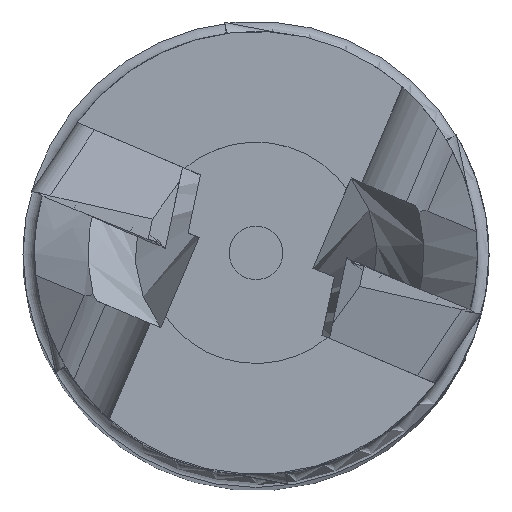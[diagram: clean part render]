
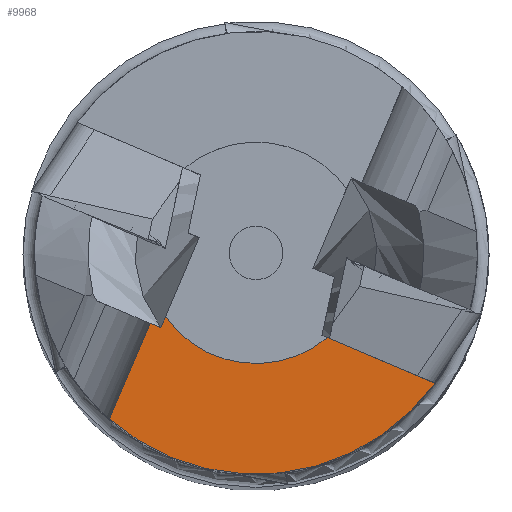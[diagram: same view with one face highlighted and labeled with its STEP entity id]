
A CAD part, top view. The second image highlights one B-rep face of the part: STEP entity #9968.
In plain terms, the highlighted planar face has unit normal (0, 0, 1).
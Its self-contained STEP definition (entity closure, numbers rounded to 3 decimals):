
#121=PLANE('',#10701);
#714=FACE_OUTER_BOUND('',#1316,.T.);
#1316=EDGE_LOOP('',(#7121,#7122,#7123,#7124,#7125,#7126));
#1949=CIRCLE('',#10692,9.5);
#1952=CIRCLE('',#10702,4.75);
#2857=LINE('',#17027,#3485);
#2859=LINE('',#17031,#3487);
#2862=LINE('',#17037,#3490);
#2863=LINE('',#17040,#3491);
#3485=VECTOR('',#11419,10.);
#3487=VECTOR('',#11423,10.);
#3490=VECTOR('',#11428,10.);
#3491=VECTOR('',#11431,10.);
#4415=VERTEX_POINT('',#16798);
#4416=VERTEX_POINT('',#16800);
#4434=VERTEX_POINT('',#17026);
#4435=VERTEX_POINT('',#17030);
#4437=VERTEX_POINT('',#17036);
#4438=VERTEX_POINT('',#17038);
#5479=EDGE_CURVE('',#4416,#4415,#1949,.T.);
#5505=EDGE_CURVE('',#4434,#4416,#2857,.T.);
#5507=EDGE_CURVE('',#4435,#4434,#2859,.T.);
#5510=EDGE_CURVE('',#4415,#4437,#2862,.T.);
#5511=EDGE_CURVE('',#4437,#4438,#1952,.T.);
#5512=EDGE_CURVE('',#4438,#4435,#2863,.T.);
#7121=ORIENTED_EDGE('',*,*,#5505,.T.);
#7122=ORIENTED_EDGE('',*,*,#5479,.T.);
#7123=ORIENTED_EDGE('',*,*,#5510,.T.);
#7124=ORIENTED_EDGE('',*,*,#5511,.T.);
#7125=ORIENTED_EDGE('',*,*,#5512,.T.);
#7126=ORIENTED_EDGE('',*,*,#5507,.T.);
#9968=ADVANCED_FACE('',(#714),#121,.T.);
#10692=AXIS2_PLACEMENT_3D('',#16801,#11394,#11395);
#10701=AXIS2_PLACEMENT_3D('',#17035,#11426,#11427);
#10702=AXIS2_PLACEMENT_3D('',#17039,#11429,#11430);
#11394=DIRECTION('center_axis',(0.,0.,1.));
#11395=DIRECTION('ref_axis',(1.,0.,0.));
#11419=DIRECTION('',(-0.391,-0.921,0.));
#11423=DIRECTION('',(-0.921,0.391,0.));
#11426=DIRECTION('center_axis',(0.,0.,1.));
#11427=DIRECTION('ref_axis',(1.,0.,0.));
#11428=DIRECTION('',(-0.921,0.391,0.));
#11429=DIRECTION('center_axis',(0.,0.,-1.));
#11430=DIRECTION('ref_axis',(1.,0.,0.));
#11431=DIRECTION('',(-0.391,-0.921,0.));
#16798=CARTESIAN_POINT('',(7.678,-5.595,59.6));
#16800=CARTESIAN_POINT('',(-6.284,-7.125,59.6));
#16801=CARTESIAN_POINT('Origin',(0.,0.,59.6));
#17026=CARTESIAN_POINT('',(-4.539,-3.016,59.6));
#17027=CARTESIAN_POINT('',(-3.65,-0.922,59.6));
#17030=CARTESIAN_POINT('',(-4.079,-3.211,59.6));
#17031=CARTESIAN_POINT('',(-8.451,-1.355,59.6));
#17035=CARTESIAN_POINT('Origin',(0.,0.,59.6));
#17036=CARTESIAN_POINT('',(3.059,-3.634,59.6));
#17037=CARTESIAN_POINT('',(3.532,-3.835,59.6));
#17038=CARTESIAN_POINT('',(-3.879,-2.741,59.6));
#17039=CARTESIAN_POINT('Origin',(0.,0.,59.6));
#17040=CARTESIAN_POINT('',(-3.19,-1.117,59.6));
